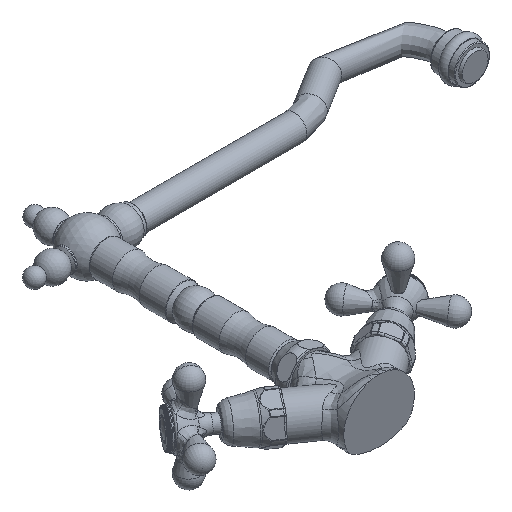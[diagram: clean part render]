
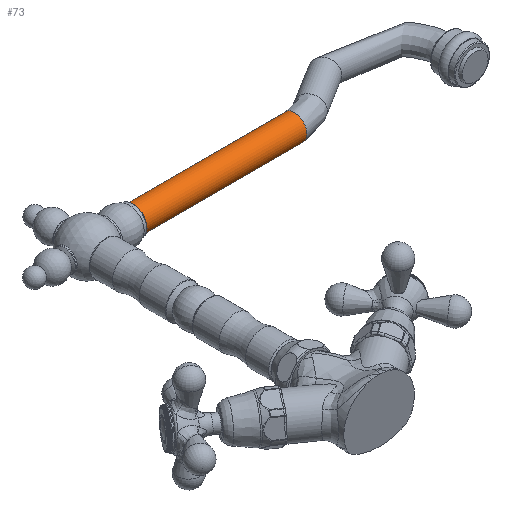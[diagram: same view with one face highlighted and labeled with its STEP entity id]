
A CAD part, isometric view. The second image highlights one B-rep face of the part: STEP entity #73.
In plain terms, the highlighted cylindrical face has radius 8.836 mm (diameter 17.672 mm), a full revolution.
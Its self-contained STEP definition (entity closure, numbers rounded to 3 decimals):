
#73=ADVANCED_FACE('',(#45190,#45192),#45194,.T.);
#45190=FACE_OUTER_BOUND('',#45191,.T.);
#45191=EDGE_LOOP('',(#111631));
#45192=FACE_OUTER_BOUND('',#45193,.T.);
#45193=EDGE_LOOP('',(#111632));
#45194=CYLINDRICAL_SURFACE('',#45195,8.836);
#45195=AXIS2_PLACEMENT_3D('',#45196,#45197,#45198);
#45196=CARTESIAN_POINT('',(32.898,208.673,0.));
#45197=DIRECTION('',(1.,0.,0.));
#45198=DIRECTION('',(0.,1.,0.));
#111631=ORIENTED_EDGE('',*,*,#135979,.F.);
#111632=ORIENTED_EDGE('',*,*,#135980,.T.);
#135979=EDGE_CURVE('',#148146,#148146,#148147,.T.);
#135980=EDGE_CURVE('',#148148,#148148,#148149,.T.);
#148146=VERTEX_POINT('',#167568);
#148147=CIRCLE('',#167569,8.836);
#148148=VERTEX_POINT('',#167573);
#148149=CIRCLE('',#167574,8.836);
#167568=CARTESIAN_POINT('',(148.182,217.509,0.));
#167569=AXIS2_PLACEMENT_3D('',#167570,#167571,#167572);
#167570=CARTESIAN_POINT('',(148.182,208.673,0.));
#167571=DIRECTION('',(1.,0.,0.));
#167572=DIRECTION('',(0.,1.,0.));
#167573=CARTESIAN_POINT('',(32.898,217.509,0.));
#167574=AXIS2_PLACEMENT_3D('',#167575,#167576,#167577);
#167575=CARTESIAN_POINT('',(32.898,208.673,0.));
#167576=DIRECTION('',(1.,0.,0.));
#167577=DIRECTION('',(0.,1.,0.));
